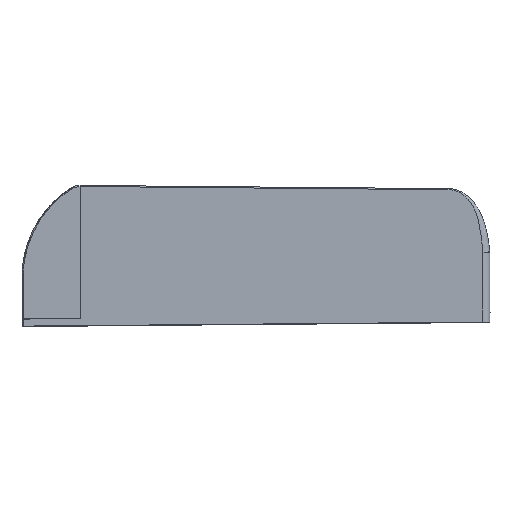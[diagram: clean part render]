
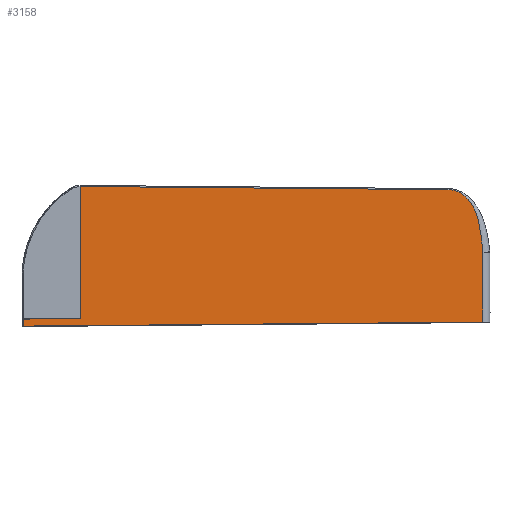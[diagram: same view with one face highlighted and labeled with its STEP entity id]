
A CAD part, top view. The second image highlights one B-rep face of the part: STEP entity #3158.
In plain terms, the highlighted planar face has unit normal (0.009, 0, 1).
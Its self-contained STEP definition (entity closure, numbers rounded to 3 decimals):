
#113=DIRECTION('',(-1.,-0.009,0.009));
#114=VECTOR('',#113,16.233);
#115=CARTESIAN_POINT('',(-57.724,-7.901,38.356));
#116=LINE('',#115,#114);
#370=DIRECTION('',(0.,-1.,0.));
#371=VECTOR('',#370,37.543);
#372=CARTESIAN_POINT('',(-57.724,29.642,38.356));
#373=LINE('',#372,#371);
#418=CARTESIAN_POINT('',(-73.956,-10.042,38.497));
#509=DIRECTION('',(0.,-1.,0.));
#510=VECTOR('',#509,2.);
#511=CARTESIAN_POINT('',(-73.956,-8.042,38.497));
#512=LINE('',#511,#510);
#513=DIRECTION('',(1.,-0.009,-0.009));
#514=VECTOR('',#513,104.477);
#515=CARTESIAN_POINT('',(-57.724,29.642,38.356));
#516=LINE('',#515,#514);
#517=CARTESIAN_POINT('',(46.745,28.73,37.444));
#518=CARTESIAN_POINT('',(47.229,28.732,37.44));
#519=CARTESIAN_POINT('',(48.194,28.647,37.431));
#520=CARTESIAN_POINT('',(49.548,28.253,37.42));
#521=CARTESIAN_POINT('',(50.811,27.581,37.409));
#522=CARTESIAN_POINT('',(51.893,26.694,37.399));
#523=CARTESIAN_POINT('',(52.845,25.637,37.391));
#524=CARTESIAN_POINT('',(53.647,24.479,37.384));
#525=CARTESIAN_POINT('',(54.317,23.248,37.378));
#526=CARTESIAN_POINT('',(55.048,21.522,37.372));
#527=CARTESIAN_POINT('',(55.674,19.306,37.366));
#528=CARTESIAN_POINT('',(56.305,15.614,37.361));
#529=CARTESIAN_POINT('',(56.541,12.774,37.359));
#530=CARTESIAN_POINT('',(56.759,10.845,37.357));
#532=DIRECTION('',(-1.,-0.009,0.009));
#533=VECTOR('',#532,130.725);
#534=CARTESIAN_POINT('',(56.759,-8.901,37.357));
#535=LINE('',#534,#533);
#536=CARTESIAN_POINT('',(-57.724,29.642,38.356));
#1396=DIRECTION('',(0.,1.,0.));
#1397=VECTOR('',#1396,19.747);
#1398=CARTESIAN_POINT('',(56.759,-8.901,37.357));
#1399=LINE('',#1398,#1397);
#2184=CARTESIAN_POINT('',(-57.724,-7.901,
38.356));
#2185=VERTEX_POINT('',#2184);
#2186=CARTESIAN_POINT('',(-73.956,-8.042,
38.497));
#2187=VERTEX_POINT('',#2186);
#2305=VERTEX_POINT('',#536);
#2331=VERTEX_POINT('',#418);
#2332=CARTESIAN_POINT('',(56.759,-8.901,37.357));
#2333=VERTEX_POINT('',#2332);
#2364=CARTESIAN_POINT('',(46.745,28.73,37.444));
#2365=VERTEX_POINT('',#2364);
#2366=VERTEX_POINT('',#530);
#3141=CARTESIAN_POINT('',(-74.258,29.955,38.5));
#3142=DIRECTION('',(-0.009,0.,-1.));
#3143=DIRECTION('',(-1.,0.,0.009));
#3144=AXIS2_PLACEMENT_3D('',#3141,#3142,#3143);
#3145=PLANE('',#3144);
#3146=ORIENTED_EDGE('',*,*,#2679,.F.);
#3147=ORIENTED_EDGE('',*,*,#2931,.F.);
#3149=ORIENTED_EDGE('',*,*,#3148,.T.);
#3151=ORIENTED_EDGE('',*,*,#3150,.T.);
#3153=ORIENTED_EDGE('',*,*,#3152,.F.);
#3154=ORIENTED_EDGE('',*,*,#2990,.T.);
#3155=ORIENTED_EDGE('',*,*,#3136,.F.);
#3156=EDGE_LOOP('',(#3146,#3147,#3149,#3151,#3153,#3154,#3155));
#3157=FACE_OUTER_BOUND('',#3156,.F.);
#3158=ADVANCED_FACE('',(#3157),#3145,.F.);
#531=B_SPLINE_CURVE_WITH_KNOTS('',3,(#517,#518,#519,#520,#521,#522,#523,#524,
#525,#526,#527,#528,#529,#530),.UNSPECIFIED.,.F.,.F.,(4,1,1,1,1,1,1,1,1,1,1,4),(
0.,0.063,0.125,0.188,0.25,
0.313,0.375,0.438,0.5,
0.625,0.75,1.),.UNSPECIFIED.);
#2679=EDGE_CURVE('',#2185,#2187,#116,.T.);
#2931=EDGE_CURVE('',#2305,#2185,#373,.T.);
#2990=EDGE_CURVE('',#2333,#2331,#535,.T.);
#3136=EDGE_CURVE('',#2187,#2331,#512,.T.);
#3148=EDGE_CURVE('',#2305,#2365,#516,.T.);
#3150=EDGE_CURVE('',#2365,#2366,#531,.T.);
#3152=EDGE_CURVE('',#2333,#2366,#1399,.T.);
